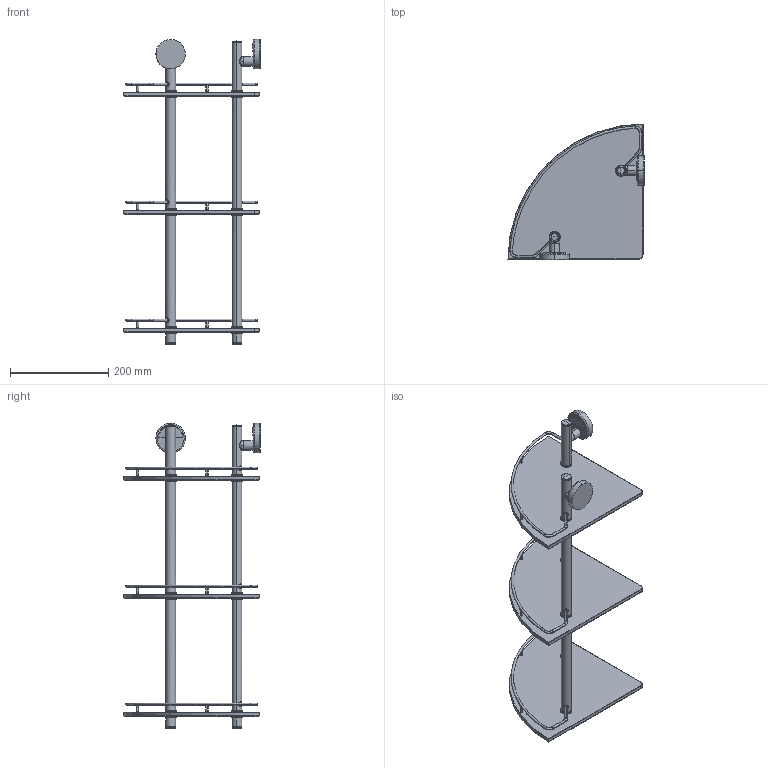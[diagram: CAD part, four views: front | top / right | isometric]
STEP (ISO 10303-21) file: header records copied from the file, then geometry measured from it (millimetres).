
FILE_DESCRIPTION(('THIS FILE CONTAINS SOME STEP INSTANCES'),'1');
FILE_NAME('lux_073.stp','2015-12-16T15:44:37',('UNDEFINED'),('UNDEFINED'),'T-FLEX CAD STEP converter','T-FLEX CAD','');
FILE_SCHEMA(('CONFIG_CONTROL_DESIGN'));
Length unit declared in the file: metre
Products named in the file (8): 砱鋋_46; 3D 鐨飹懤艜_49; 砱鋋_42; 砱鋋_44
Bounding box: 276.9 x 276.9 x 621.6 mm (x, y, z)
Volume: 1926007.1 mm3; surface area: 509373.1 mm2
Topology: 8 solids, 12 shells, 522 faces, 1265 edges, 777 vertices
Faces by surface type: cylinder 190, bspline 98, plane 94, cone 68, torus 64, sphere 8
Entity records: 39706 total; most frequent: CARTESIAN_POINT 29878, ORIENTED_EDGE 2466, DIRECTION 1358, EDGE_CURVE 1233, VERTEX_POINT 777, EDGE_LOOP 576, AXIS2_PLACEMENT_3D 530, ADVANCED_FACE 522
